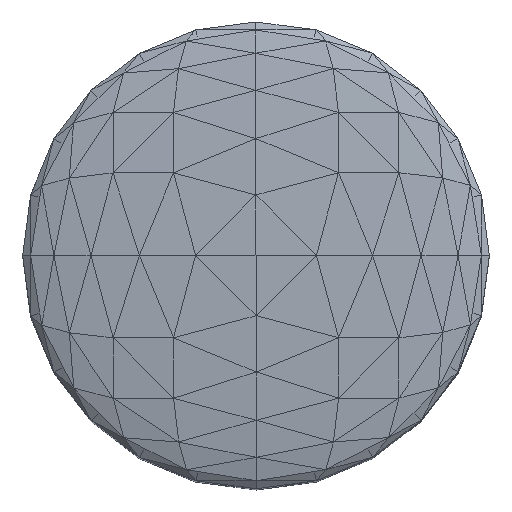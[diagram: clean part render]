
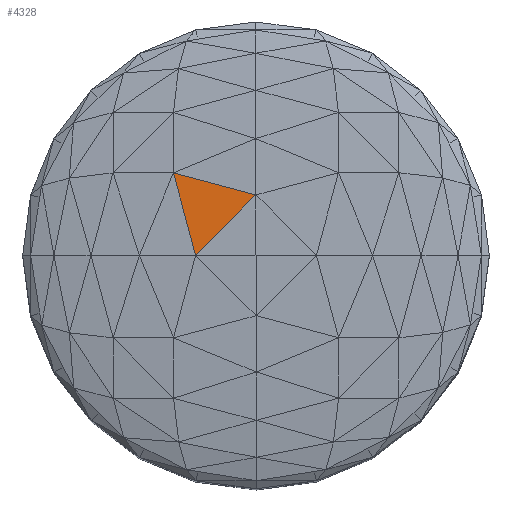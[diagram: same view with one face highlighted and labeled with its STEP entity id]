
A CAD part, top view. The second image highlights one B-rep face of the part: STEP entity #4328.
In plain terms, the highlighted planar face has unit normal (-0.023, 0.023, 1).
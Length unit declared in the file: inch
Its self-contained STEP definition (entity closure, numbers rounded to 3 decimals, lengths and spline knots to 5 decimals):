
#4194=CARTESIAN_POINT('',(-0.03106,-0.00002,0.58707));
#4195=VERTEX_POINT('',#4194);
#4226=CARTESIAN_POINT('',(-0.00002,0.03106,0.58707));
#4227=VERTEX_POINT('',#4226);
#4234=CARTESIAN_POINT('',(-0.03106,-0.00002,0.58707));
#4235=DIRECTION('',(0.707,0.708,0.));
#4236=VECTOR('',#4235,0.04393);
#4237=LINE('',#4234,#4236);
#4238=EDGE_CURVE('',#4195,#4227,#4237,.T.);
#4306=CARTESIAN_POINT('',(-0.03106,-0.00002,0.58707));
#4307=DIRECTION('',(-0.023,0.023,0.999));
#4308=DIRECTION('',(1.,0.001,0.023));
#4309=AXIS2_PLACEMENT_3D('',#4306,#4307,#4308);
#4310=PLANE('',#4309);
#4311=ORIENTED_EDGE('',*,*,#4238,.T.);
#4312=CARTESIAN_POINT('',(-0.04246,0.0424,0.58583));
#4313=VERTEX_POINT('',#4312);
#4314=CARTESIAN_POINT('',(-0.04246,0.0424,0.58583));
#4315=DIRECTION('',(0.966,-0.258,0.028));
#4316=VECTOR('',#4315,0.04395);
#4317=LINE('',#4314,#4316);
#4318=EDGE_CURVE('',#4313,#4227,#4317,.T.);
#4319=ORIENTED_EDGE('',*,*,#4318,.F.);
#4320=CARTESIAN_POINT('',(-0.04246,0.0424,0.58583));
#4321=DIRECTION('',(0.259,-0.965,0.028));
#4322=VECTOR('',#4321,0.04394);
#4323=LINE('',#4320,#4322);
#4324=EDGE_CURVE('',#4313,#4195,#4323,.T.);
#4325=ORIENTED_EDGE('',*,*,#4324,.T.);
#4326=EDGE_LOOP('',(#4311,#4319,#4325));
#4327=FACE_BOUND('',#4326,.T.);
#4328=ADVANCED_FACE('',(#4327),#4310,.T.);
